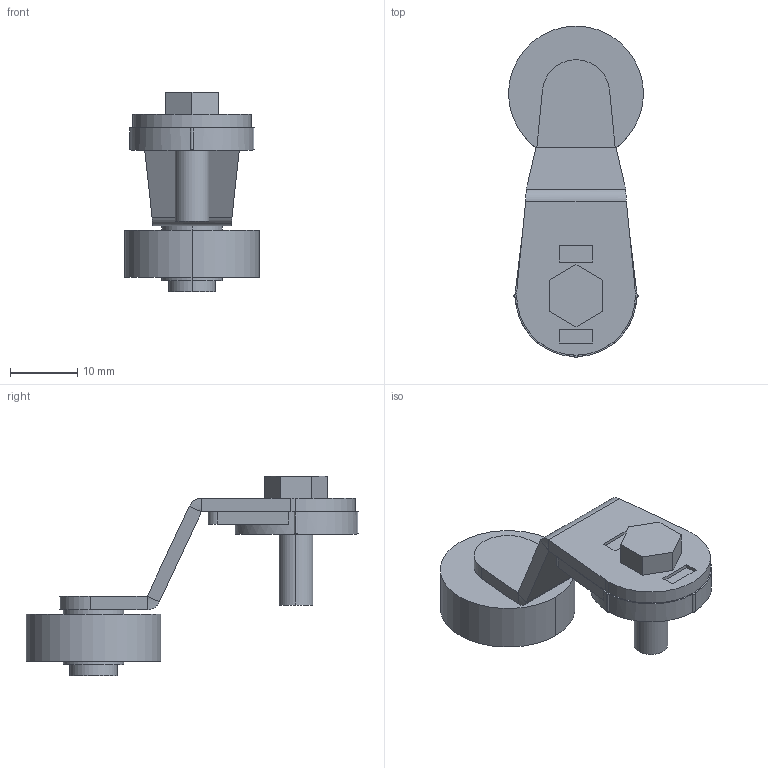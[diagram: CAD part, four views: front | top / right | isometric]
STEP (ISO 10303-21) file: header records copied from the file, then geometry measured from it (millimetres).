
FILE_DESCRIPTION (( 'STEP AP203' ), '1' );
FILE_NAME ('ZF_VF_L51_A10.step', '2010-03-09T13:37:44', ( 'fabio' ), ( '' ), 'SwSTEP 2.0', 'SolidWorks 2009', '' );
FILE_SCHEMA (( 'CONFIG_CONTROL_DESIGN' ));
Length unit declared in the file: millimetre
Products named in the file (4): ZF_VF_L51_A10; Pizzato_supporto-leva_serie_pesanti_262; Vite_leve_pesanti; Pizzato_L51
Assembly tree (3 placements, depth 2):
  ZF_VF_L51_A10
    Pizzato_supporto-leva_serie_pesanti_262
    Pizzato_L51
    Vite_leve_pesanti
Bounding box: 20 x 49.2 x 29.6 mm (x, y, z)
Volume: 4892.5 mm3; surface area: 4161.7 mm2
Topology: 3 solids, 3 shells, 244 faces, 674 edges, 444 vertices
Faces by surface type: plane 125, cylinder 115, bspline 4
Entity records: 8350 total; most frequent: CARTESIAN_POINT 1512, DIRECTION 1380, ORIENTED_EDGE 1348, EDGE_CURVE 674, AXIS2_PLACEMENT_3D 476, VERTEX_POINT 444, VECTOR 428, LINE 428
